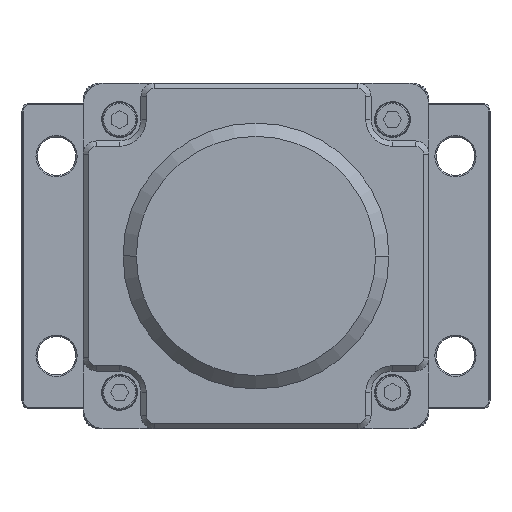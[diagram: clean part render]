
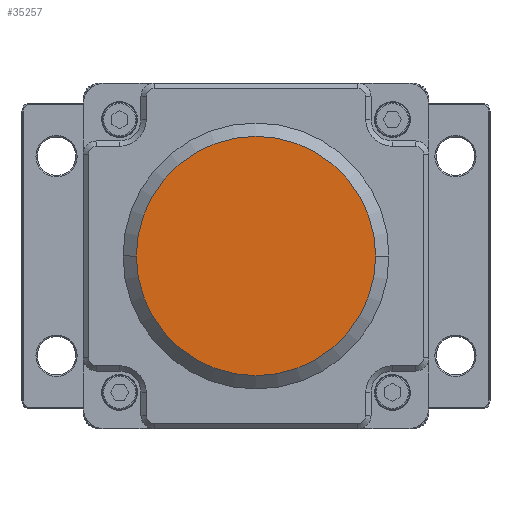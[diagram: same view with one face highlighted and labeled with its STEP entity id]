
A CAD part, front view. The second image highlights one B-rep face of the part: STEP entity #35257.
In plain terms, the highlighted planar face has unit normal (0, -1, 0) as drawn and (0, 1, 0) by its records, which use the part's own axes.
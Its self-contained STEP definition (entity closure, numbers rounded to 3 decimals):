
#33335=CARTESIAN_POINT('',(0.,166.,0.));
#33336=DIRECTION('',(0.,1.,0.));
#33337=DIRECTION('',(-1.,0.,0.));
#33338=AXIS2_PLACEMENT_3D('',#33335,#33336,#33337);
#33340=CARTESIAN_POINT('',(0.,166.,0.));
#33341=DIRECTION('',(0.,1.,0.));
#33342=DIRECTION('',(1.,0.,0.));
#33343=AXIS2_PLACEMENT_3D('',#33340,#33341,#33342);
#34202=CARTESIAN_POINT('',(-45.,166.,0.));
#34203=CARTESIAN_POINT('',(45.,166.,0.));
#34204=VERTEX_POINT('',#34202);
#34205=VERTEX_POINT('',#34203);
#35247=CARTESIAN_POINT('',(0.,166.,0.));
#35248=DIRECTION('',(0.,1.,0.));
#35249=DIRECTION('',(1.,0.,0.));
#35250=AXIS2_PLACEMENT_3D('',#35247,#35248,#35249);
#35251=PLANE('',#35250);
#35253=ORIENTED_EDGE('',*,*,#35252,.F.);
#35254=ORIENTED_EDGE('',*,*,#35237,.F.);
#35255=EDGE_LOOP('',(#35253,#35254));
#35256=FACE_OUTER_BOUND('',#35255,.F.);
#35257=ADVANCED_FACE('',(#35256),#35251,.T.);
#33339=CIRCLE('',#33338,45.);
#33344=CIRCLE('',#33343,45.);
#35237=EDGE_CURVE('',#34205,#34204,#33344,.T.);
#35252=EDGE_CURVE('',#34204,#34205,#33339,.T.);
